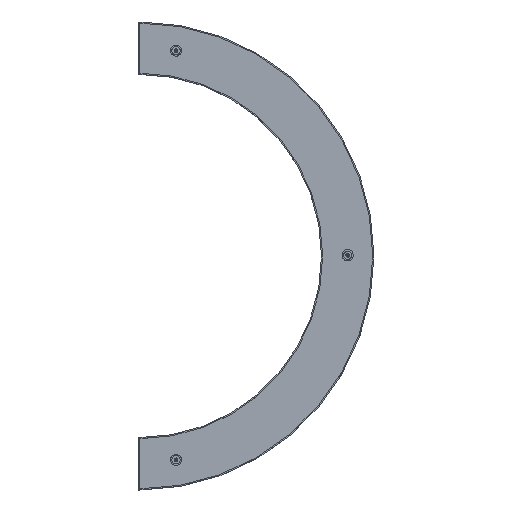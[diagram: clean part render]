
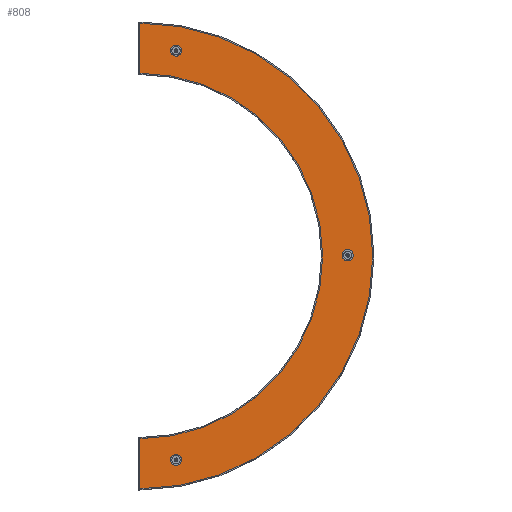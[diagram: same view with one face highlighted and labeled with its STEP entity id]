
A CAD part, top view. The second image highlights one B-rep face of the part: STEP entity #808.
In plain terms, the highlighted planar face has unit normal (0, 0, 1).
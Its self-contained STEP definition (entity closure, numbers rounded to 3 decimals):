
#808=ADVANCED_FACE('',(#1045,#1047,#1049,#1051),#1053,.T.);
#1045=FACE_BOUND('',#1046,.T.);
#1046=EDGE_LOOP('',(#1582,#1583,#1584,#1585));
#1047=FACE_BOUND('',#1048,.T.);
#1048=EDGE_LOOP('',(#1586));
#1049=FACE_BOUND('',#1050,.T.);
#1050=EDGE_LOOP('',(#1587));
#1051=FACE_BOUND('',#1052,.T.);
#1052=EDGE_LOOP('',(#1588));
#1053=PLANE('',#1054);
#1054=AXIS2_PLACEMENT_3D('',#1055,#1056,#1057);
#1055=CARTESIAN_POINT('',(0.,0.,1.5));
#1056=DIRECTION('',(0.,0.,1.));
#1057=DIRECTION('',(-1.,0.,0.));
#1582=ORIENTED_EDGE('',*,*,#1812,.T.);
#1583=ORIENTED_EDGE('',*,*,#1813,.T.);
#1584=ORIENTED_EDGE('',*,*,#1814,.T.);
#1585=ORIENTED_EDGE('',*,*,#1815,.T.);
#1586=ORIENTED_EDGE('',*,*,#1816,.T.);
#1587=ORIENTED_EDGE('',*,*,#1817,.T.);
#1588=ORIENTED_EDGE('',*,*,#1818,.T.);
#1812=EDGE_CURVE('',#1990,#1991,#1992,.T.);
#1813=EDGE_CURVE('',#1991,#1993,#1994,.T.);
#1814=EDGE_CURVE('',#1993,#1995,#1996,.T.);
#1815=EDGE_CURVE('',#1995,#1990,#1997,.T.);
#1816=EDGE_CURVE('',#1998,#1998,#1999,.F.);
#1817=EDGE_CURVE('',#2000,#2000,#2001,.F.);
#1818=EDGE_CURVE('',#2002,#2002,#2003,.F.);
#1990=VERTEX_POINT('',#2363);
#1991=VERTEX_POINT('',#2364);
#1992=CIRCLE('',#2365,244.);
#1993=VERTEX_POINT('',#2369);
#1994=LINE('',#2370,#2371);
#1995=VERTEX_POINT('',#2373);
#1996=CIRCLE('',#2374,311.);
#1997=LINE('',#2378,#2379);
#1998=VERTEX_POINT('',#2381);
#1999=CIRCLE('',#2382,2.5);
#2000=VERTEX_POINT('',#2386);
#2001=CIRCLE('',#2387,2.5);
#2002=VERTEX_POINT('',#2391);
#2003=CIRCLE('',#2392,2.5);
#2363=CARTESIAN_POINT('',(0.,244.,1.5));
#2364=CARTESIAN_POINT('',(0.,-244.,1.5));
#2365=AXIS2_PLACEMENT_3D('',#2366,#2367,#2368);
#2366=CARTESIAN_POINT('',(0.,0.,1.5));
#2367=DIRECTION('',(0.,0.,-1.));
#2368=DIRECTION('',(0.,1.,0.));
#2369=CARTESIAN_POINT('',(0.,-311.,1.5));
#2370=CARTESIAN_POINT('',(0.,-244.,1.5));
#2371=VECTOR('',#2372,1.);
#2372=DIRECTION('',(0.,-1.,0.));
#2373=CARTESIAN_POINT('',(0.,311.,1.5));
#2374=AXIS2_PLACEMENT_3D('',#2375,#2376,#2377);
#2375=CARTESIAN_POINT('',(0.,0.,1.5));
#2376=DIRECTION('',(0.,0.,1.));
#2377=DIRECTION('',(0.,-1.,0.));
#2378=CARTESIAN_POINT('',(0.,311.,1.5));
#2379=VECTOR('',#2380,1.);
#2380=DIRECTION('',(0.,-1.,0.));
#2381=CARTESIAN_POINT('',(47.753,-270.822,1.5));
#2382=AXIS2_PLACEMENT_3D('',#2383,#2384,#2385);
#2383=CARTESIAN_POINT('',(48.187,-273.284,1.5));
#2384=DIRECTION('',(0.,0.,1.));
#2385=DIRECTION('',(-0.174,0.985,0.));
#2386=CARTESIAN_POINT('',(275.,0.,1.5));
#2387=AXIS2_PLACEMENT_3D('',#2388,#2389,#2390);
#2388=CARTESIAN_POINT('',(277.5,0.,1.5));
#2389=DIRECTION('',(0.,0.,1.));
#2390=DIRECTION('',(-1.,0.,0.));
#2391=CARTESIAN_POINT('',(47.753,270.822,1.5));
#2392=AXIS2_PLACEMENT_3D('',#2393,#2394,#2395);
#2393=CARTESIAN_POINT('',(48.187,273.284,1.5));
#2394=DIRECTION('',(0.,0.,1.));
#2395=DIRECTION('',(-0.174,-0.985,0.));
